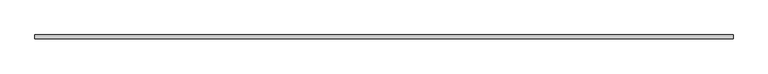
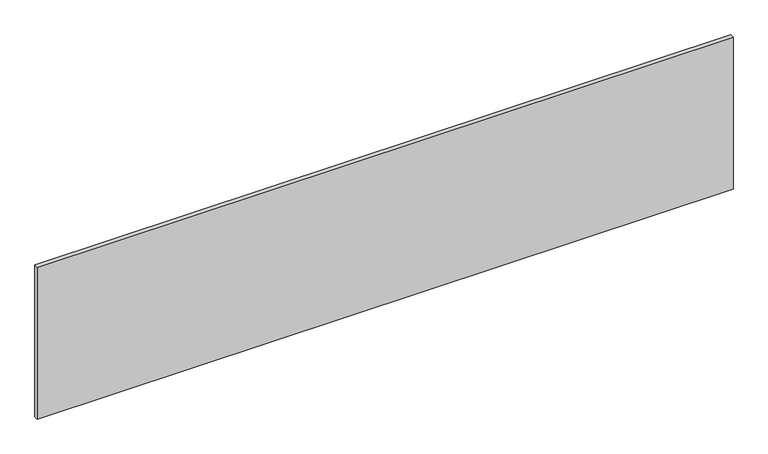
"""IFC4 building model written with IfcOpenShell, lengths in millimetres: furniture geometry, ajuste mueble - esquinas3 : ajuste mueble - esquinas."""

from ifc_helpers import new_model, si_unit, frame, origin, place, context, project, spatial, polyline, outline, extrude, source, transform, mapped, element, save


def furniture_d21489d5(model_context):
    return source(origin(), model_context, "Body", "SweptSolid", [
        extrude(outline(polyline([(32170.0470782, 31670.3587578), (35287.7759915, 31670.3587578), (35287.7759915, 31654.0199228), (32170.0470782, 31654.0199228), (32170.0470782, 31670.3587578)])), frame((0.0, 0.0, 150.0), z_axis=(0.0, 0.0, 1.0), x_axis=(1.0, 0.0, 0.0)), (0.0, 0.0, 1.0), 720.0),
    ])


if __name__ == "__main__":
    model = new_model("IFC4")
    model_context = context("Model", 3, world=origin())
    ifc_project = project(units=[si_unit("LENGTHUNIT", "METRE", prefix="MILLI")], contexts=[model_context])
    site = spatial("IfcSite", under=ifc_project)
    building = spatial("IfcBuilding", under=site)
    placement = place(None, origin())
    furniture_shape = furniture_d21489d5(model_context)
    element("IfcFurniture", 1, ObjectType="ajuste mueble - esquinas3 : ajuste mueble - esquinas", at=placement, inside=building, context=model_context, shape_type="MappedRepresentation", body=[
        mapped(furniture_shape, transform((0.0, 0.0, 0.0), x_axis=(1.0, 0.0, 0.0), y_axis=(0.0, 1.0, 0.0), z_axis=(0.0, 0.0, 1.0))),
    ])
    save(model, "model.ifc")
